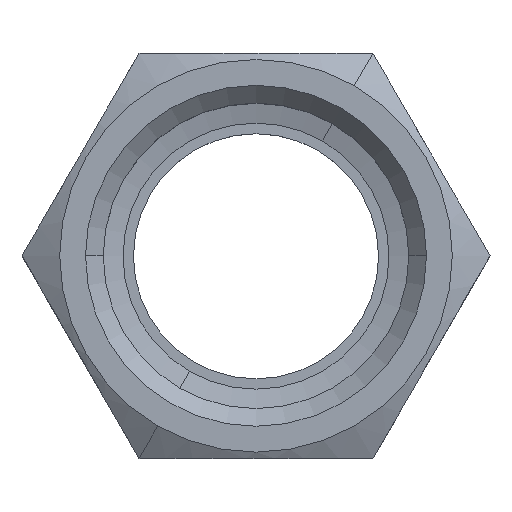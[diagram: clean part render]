
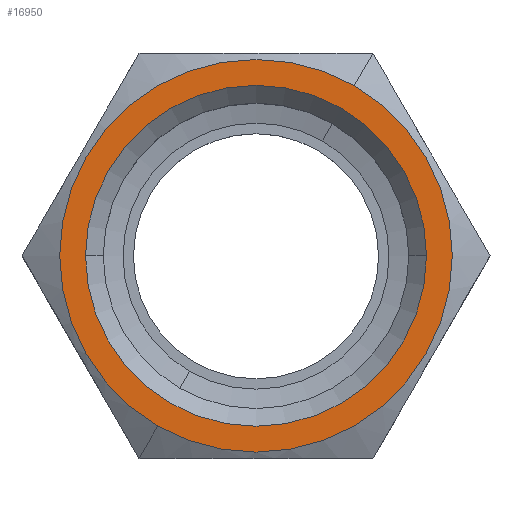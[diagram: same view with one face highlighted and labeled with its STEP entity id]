
A CAD part, top view. The second image highlights one B-rep face of the part: STEP entity #16950.
In plain terms, the highlighted planar face has unit normal (0, 0, 1) as drawn and (0, -1, 0) by its records, which use the part's own axes.
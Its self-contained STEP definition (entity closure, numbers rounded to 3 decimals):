
#16450=CARTESIAN_POINT('',(20.425,-22.5,13.448));
#16460=VERTEX_POINT('',#16450);
#16490=CARTESIAN_POINT('',(12.675,-22.5,0.025));
#16500=DIRECTION('',(0.,1.,0.));
#16510=DIRECTION('',(0.5,0.,0.866));
#16520=AXIS2_PLACEMENT_3D('',#16490,#16500,#16510);
#16530=CIRCLE('',#16520,15.5);
#16540=CARTESIAN_POINT('',(4.925,-22.5,-13.398));
#16550=VERTEX_POINT('',#16540);
#16560=EDGE_CURVE('',#16550,#16460,#16530,.T.);
#16700=CARTESIAN_POINT('',(-9.285,-22.5,-58.188));
#16710=DIRECTION('',(0.,-1.,0.));
#16720=DIRECTION('',(1.,0.,0.));
#16730=AXIS2_PLACEMENT_3D('',#16700,#16710,#16720);
#16740=PLANE('',#16730);
#16750=ORIENTED_EDGE('',*,*,#16560,.F.);
#16760=EDGE_CURVE('',#16460,#16550,#16530,.T.);
#16770=ORIENTED_EDGE('',*,*,#16760,.F.);
#16780=EDGE_LOOP('',(#16770,#16750));
#16790=FACE_OUTER_BOUND('',#16780,.T.);
#16800=CARTESIAN_POINT('',(12.675,-22.5,0.025));
#16810=DIRECTION('',(0.,-1.,0.));
#16820=DIRECTION('',(1.,0.,0.));
#16830=AXIS2_PLACEMENT_3D('',#16800,#16810,#16820);
#16840=CIRCLE('',#16830,13.459);
#16850=CARTESIAN_POINT('',(26.134,-22.5,0.025));
#16860=VERTEX_POINT('',#16850);
#16870=CARTESIAN_POINT('',(-0.783,-22.5,0.025))
;
#16880=VERTEX_POINT('',#16870);
#16890=EDGE_CURVE('',#16860,#16880,#16840,.T.);
#16900=ORIENTED_EDGE('',*,*,#16890,.F.);
#16910=EDGE_CURVE('',#16880,#16860,#16840,.T.);
#16920=ORIENTED_EDGE('',*,*,#16910,.F.);
#16930=EDGE_LOOP('',(#16920,#16900));
#16940=FACE_BOUND('',#16930,.T.);
#16950=ADVANCED_FACE('',(#16790,#16940),#16740,.T.);
